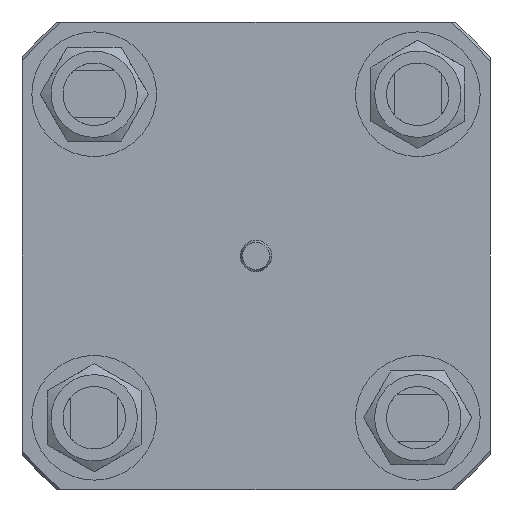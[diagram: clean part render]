
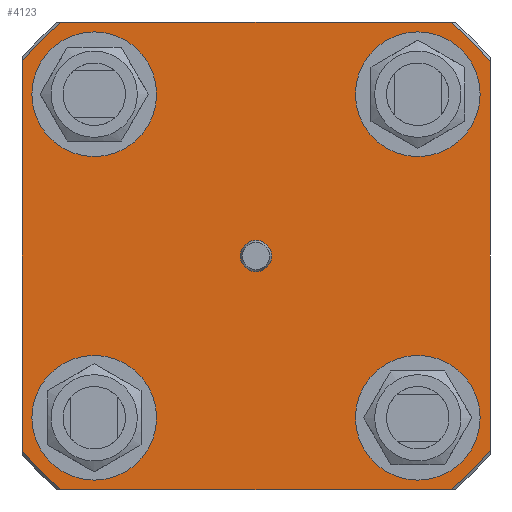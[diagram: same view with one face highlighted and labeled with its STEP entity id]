
A CAD part, left-side view. The second image highlights one B-rep face of the part: STEP entity #4123.
In plain terms, the highlighted planar face has unit normal (-1, 0, 0).
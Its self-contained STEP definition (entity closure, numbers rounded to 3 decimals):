
#242=FACE_BOUND('',#751,.T.);
#243=FACE_BOUND('',#752,.T.);
#244=FACE_BOUND('',#753,.T.);
#245=FACE_BOUND('',#754,.T.);
#246=FACE_BOUND('',#755,.T.);
#328=PLANE('',#4513);
#484=FACE_OUTER_BOUND('',#750,.T.);
#750=EDGE_LOOP('',(#3157,#3158,#3159,#3160,#3161,#3162,#3163,#3164));
#751=EDGE_LOOP('',(#3165));
#752=EDGE_LOOP('',(#3166));
#753=EDGE_LOOP('',(#3167));
#754=EDGE_LOOP('',(#3168));
#755=EDGE_LOOP('',(#3169));
#1019=LINE('',#6752,#1251);
#1020=LINE('',#6756,#1252);
#1021=LINE('',#6760,#1253);
#1022=LINE('',#6764,#1254);
#1251=VECTOR('',#5379,10.);
#1252=VECTOR('',#5382,10.);
#1253=VECTOR('',#5385,10.);
#1254=VECTOR('',#5388,10.);
#1452=CIRCLE('',#4437,3.);
#1463=CIRCLE('',#4479,12.);
#1465=CIRCLE('',#4483,12.);
#1467=CIRCLE('',#4487,12.);
#1471=CIRCLE('',#4502,12.);
#1480=CIRCLE('',#4514,58.5);
#1481=CIRCLE('',#4515,58.5);
#1482=CIRCLE('',#4516,58.5);
#1483=CIRCLE('',#4517,58.5);
#1730=VERTEX_POINT('',#6376);
#1777=VERTEX_POINT('',#6599);
#1779=VERTEX_POINT('',#6606);
#1781=VERTEX_POINT('',#6613);
#1797=VERTEX_POINT('',#6689);
#1812=VERTEX_POINT('',#6750);
#1813=VERTEX_POINT('',#6751);
#1814=VERTEX_POINT('',#6753);
#1815=VERTEX_POINT('',#6755);
#1816=VERTEX_POINT('',#6757);
#1817=VERTEX_POINT('',#6759);
#1818=VERTEX_POINT('',#6761);
#1819=VERTEX_POINT('',#6763);
#2170=EDGE_CURVE('',#1730,#1730,#1452,.T.);
#2243=EDGE_CURVE('',#1777,#1777,#1463,.T.);
#2246=EDGE_CURVE('',#1779,#1779,#1465,.T.);
#2249=EDGE_CURVE('',#1781,#1781,#1467,.T.);
#2274=EDGE_CURVE('',#1797,#1797,#1471,.T.);
#2291=EDGE_CURVE('',#1812,#1813,#1019,.T.);
#2292=EDGE_CURVE('',#1813,#1814,#1480,.T.);
#2293=EDGE_CURVE('',#1814,#1815,#1020,.T.);
#2294=EDGE_CURVE('',#1815,#1816,#1481,.T.);
#2295=EDGE_CURVE('',#1816,#1817,#1021,.T.);
#2296=EDGE_CURVE('',#1817,#1818,#1482,.T.);
#2297=EDGE_CURVE('',#1818,#1819,#1022,.T.);
#2298=EDGE_CURVE('',#1819,#1812,#1483,.T.);
#3157=ORIENTED_EDGE('',*,*,#2291,.T.);
#3158=ORIENTED_EDGE('',*,*,#2292,.T.);
#3159=ORIENTED_EDGE('',*,*,#2293,.T.);
#3160=ORIENTED_EDGE('',*,*,#2294,.T.);
#3161=ORIENTED_EDGE('',*,*,#2295,.T.);
#3162=ORIENTED_EDGE('',*,*,#2296,.T.);
#3163=ORIENTED_EDGE('',*,*,#2297,.T.);
#3164=ORIENTED_EDGE('',*,*,#2298,.T.);
#3165=ORIENTED_EDGE('',*,*,#2170,.T.);
#3166=ORIENTED_EDGE('',*,*,#2243,.T.);
#3167=ORIENTED_EDGE('',*,*,#2246,.T.);
#3168=ORIENTED_EDGE('',*,*,#2249,.T.);
#3169=ORIENTED_EDGE('',*,*,#2274,.T.);
#4123=ADVANCED_FACE('',(#484,#242,#243,#244,#245,#246),#328,.T.);
#4437=AXIS2_PLACEMENT_3D('',#6377,#5182,#5183);
#4479=AXIS2_PLACEMENT_3D('',#6600,#5292,#5293);
#4483=AXIS2_PLACEMENT_3D('',#6607,#5301,#5302);
#4487=AXIS2_PLACEMENT_3D('',#6614,#5310,#5311);
#4502=AXIS2_PLACEMENT_3D('',#6690,#5349,#5350);
#4513=AXIS2_PLACEMENT_3D('',#6749,#5377,#5378);
#4514=AXIS2_PLACEMENT_3D('',#6754,#5380,#5381);
#4515=AXIS2_PLACEMENT_3D('',#6758,#5383,#5384);
#4516=AXIS2_PLACEMENT_3D('',#6762,#5386,#5387);
#4517=AXIS2_PLACEMENT_3D('',#6765,#5389,#5390);
#5182=DIRECTION('center_axis',(1.,0.,0.));
#5183=DIRECTION('ref_axis',(0.,1.,0.));
#5292=DIRECTION('center_axis',(1.,0.,0.));
#5293=DIRECTION('ref_axis',(0.,-1.,0.));
#5301=DIRECTION('center_axis',(1.,0.,0.));
#5302=DIRECTION('ref_axis',(0.,0.,-1.));
#5310=DIRECTION('center_axis',(1.,0.,0.));
#5311=DIRECTION('ref_axis',(0.,1.,0.));
#5349=DIRECTION('center_axis',(1.,0.,0.));
#5350=DIRECTION('ref_axis',(0.,0.,
1.));
#5377=DIRECTION('center_axis',(-1.,0.,0.));
#5378=DIRECTION('ref_axis',(0.,0.,
-1.));
#5379=DIRECTION('',(0.,-1.,0.));
#5380=DIRECTION('center_axis',(-1.,0.,0.));
#5381=DIRECTION('ref_axis',(0.,0.,
-1.));
#5382=DIRECTION('',(0.,0.,1.));
#5383=DIRECTION('center_axis',(-1.,0.,0.));
#5384=DIRECTION('ref_axis',(0.,0.,
-1.));
#5385=DIRECTION('',(0.,1.,0.));
#5386=DIRECTION('center_axis',(-1.,0.,0.));
#5387=DIRECTION('ref_axis',(0.,0.,
-1.));
#5388=DIRECTION('',(0.,0.,-1.));
#5389=DIRECTION('center_axis',(-1.,0.,0.));
#5390=DIRECTION('ref_axis',(0.,0.,
-1.));
#6376=CARTESIAN_POINT('',(-253.025,-3.,0.));
#6377=CARTESIAN_POINT('Origin',(-253.025,0.,
0.));
#6599=CARTESIAN_POINT('',(-253.025,-19.113,31.113));
#6600=CARTESIAN_POINT('Origin',(-253.025,-31.113,31.113));
#6606=CARTESIAN_POINT('',(-253.025,-31.113,-19.113));
#6607=CARTESIAN_POINT('Origin',(-253.025,-31.113,-31.113));
#6613=CARTESIAN_POINT('',(-253.025,19.113,-31.113));
#6614=CARTESIAN_POINT('Origin',(-253.025,31.113,-31.113));
#6689=CARTESIAN_POINT('',(-253.025,31.113,19.113));
#6690=CARTESIAN_POINT('Origin',(-253.025,31.113,31.113));
#6749=CARTESIAN_POINT('Origin',(-253.025,-3.1,0.));
#6750=CARTESIAN_POINT('',(-253.025,37.38,-45.));
#6751=CARTESIAN_POINT('',(-253.025,-37.38,-45.));
#6752=CARTESIAN_POINT('',(-253.025,20.95,-45.));
#6753=CARTESIAN_POINT('',(-253.025,-45.,-37.38));
#6754=CARTESIAN_POINT('Origin',(-253.025,0.,
0.));
#6755=CARTESIAN_POINT('',(-253.025,-45.,37.38));
#6756=CARTESIAN_POINT('',(-253.025,-45.,-22.5));
#6757=CARTESIAN_POINT('',(-253.025,-37.38,45.));
#6758=CARTESIAN_POINT('Origin',(-253.025,0.,
0.));
#6759=CARTESIAN_POINT('',(-253.025,37.38,45.));
#6760=CARTESIAN_POINT('',(-253.025,-24.05,45.));
#6761=CARTESIAN_POINT('',(-253.025,45.,37.38));
#6762=CARTESIAN_POINT('Origin',(-253.025,0.,
0.));
#6763=CARTESIAN_POINT('',(-253.025,45.,-37.38));
#6764=CARTESIAN_POINT('',(-253.025,45.,22.5));
#6765=CARTESIAN_POINT('Origin',(-253.025,0.,
0.));
